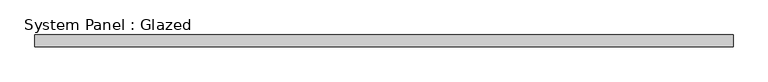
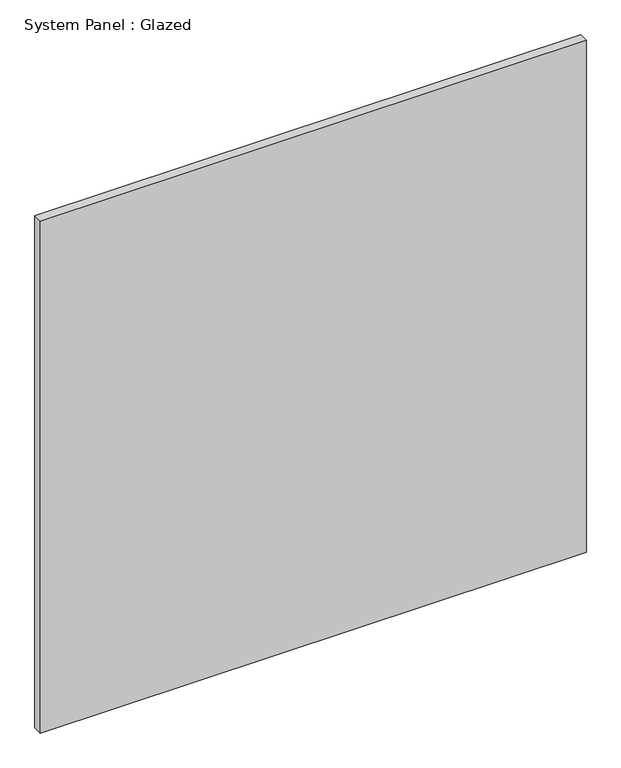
"""IFC4 building model written with IfcOpenShell, lengths in millimetres: plate geometry, System Panel : Glazed."""

from ifc_helpers import new_model, si_unit, origin, origin_with_axes, place, context, project, spatial, polyline, outline, extrude, source, transform, mapped, element, save


def system_panel_glazed_7bd62287(model_context):
    return source(origin(), model_context, "Body", "SweptSolid", [
        extrude(outline(polyline([(724.5000001, -49.5), (-724.5000001, -49.5), (-724.5000001, -24.5), (724.5000001, -24.5), (724.5000001, -49.5)])), origin_with_axes(), (0.0, 0.0, 1.0), 1435.6),
    ])


if __name__ == "__main__":
    model = new_model("IFC4")
    model_context = context("Model", 3, world=origin())
    ifc_project = project(units=[si_unit("LENGTHUNIT", "METRE", prefix="MILLI")], contexts=[model_context])
    site = spatial("IfcSite", under=ifc_project)
    building = spatial("IfcBuilding", under=site)
    placement = place(None, origin())
    system_panel_glazed_shape = system_panel_glazed_7bd62287(model_context)
    element("IfcPlate", 1, ObjectType="System Panel : Glazed", at=placement, inside=building, context=model_context, shape_type="MappedRepresentation", body=[
        mapped(system_panel_glazed_shape, transform((0.0, 0.0, 0.0), x_axis=(1.0, 0.0, 0.0), y_axis=(0.0, 1.0, 0.0), z_axis=(0.0, 0.0, 1.0))),
    ])
    save(model, "model.ifc")
